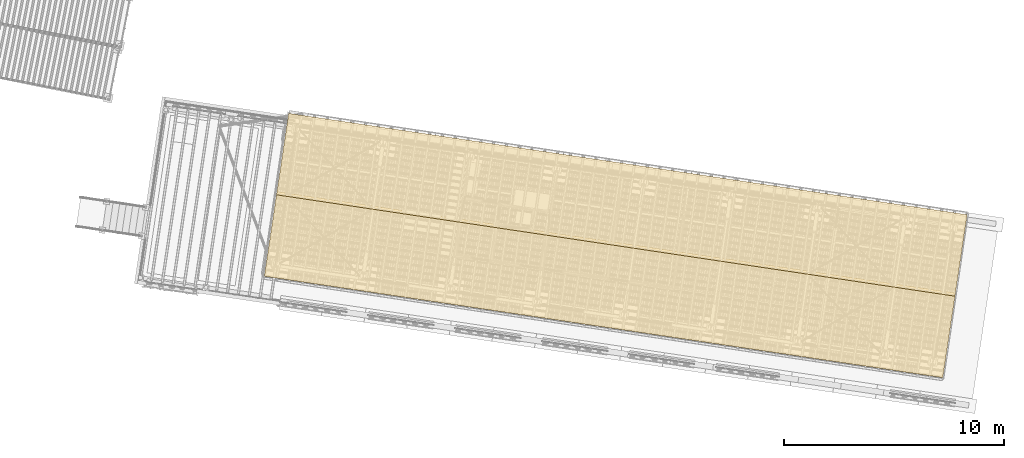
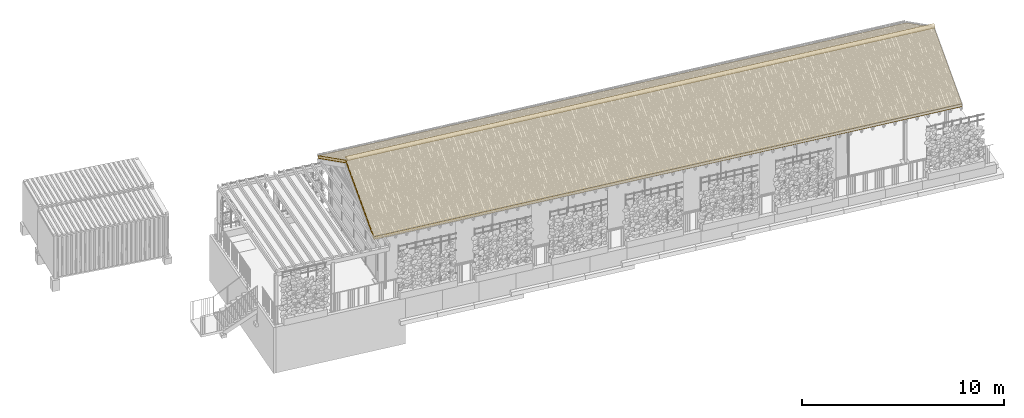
# One storey, part 125 of 128: 7 coverings, 1 element without a shape of its own.
"""IFC4 building model written with IfcOpenShell, lengths in metres."""

from ifc_helpers import new_model, si_unit, direction, frame, origin_with_axes, place, context, subcontext, project, spatial, polyline, outline, extrude, material, element, aggregate, save


model = new_model("IFC4")

# Units and contexts
model_context = context("Model", 3, precision=1e-05, world=origin_with_axes(), true_north=direction((0.0, 1.0)))
body_context = subcontext(model_context, "Body", "Model", "MODEL_VIEW")
ifc_project = project(units=[si_unit("VOLUMEUNIT", "CUBIC_METRE"), si_unit("LENGTHUNIT", "METRE"), si_unit("AREAUNIT", "SQUARE_METRE")], contexts=[model_context])

# Site, building, storey
site_placement = place(None, origin_with_axes())
site = spatial("IfcSite", under=ifc_project, at=site_placement, Name="Lares · Rua das Mercês · artigo 4771")
building_placement = place(site_placement, frame((15.0, 9.7, 13.9), z_axis=(0.0, 0.0, 1.0), x_axis=(0.989015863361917, -0.147809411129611, 0.0)))
building = spatial("IfcBuilding", under=site, at=building_placement, Name="Casa Sobreposta")
storey_placement = place(building_placement, origin_with_axes())
storey = spatial("IfcBuildingStorey", under=building, at=storey_placement, Name="00 · Habitação e estacionamento", Elevation=13.9)

# Roof, coverings
ifc_material_1 = material(Name="Madeira / Bauholz", Category="wood")
roof_placement = place(storey_placement, origin_with_axes())
roof = element("IfcRoof", 1, at=roof_placement, inside=storey, material=ifc_material_1, Name="Cobertura de telha · duas águas 30 graus", PredefinedType="GABLE_ROOF")
covering_1_placement = place(roof_placement, frame((-0.45, 0.0, 0.0), z_axis=(1.0, 0.0, 0.0), x_axis=(0.0, 1.0, 0.0)))
covering_1 = element("IfcCovering", 2, at=covering_1_placement, material=ifc_material_1, Name="Cobertura · forro de madeira", PredefinedType="CLADDING", context=body_context, shape_type="SweptSolid", body=[
    extrude(outline(polyline([(-0.55, 3.00245735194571), (3.2, 5.1675208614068), (3.2, 5.1875208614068), (-0.55, 3.02245735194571), (-0.55, 3.00245735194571)])), origin_with_axes(), (0.0, 0.0, 1.0), 31.22),
])
ifc_material_2 = material(Name="Lã mineral / Mineralwolle 2", Category="mineral wool")
covering_2_placement = place(roof_placement, frame((-0.45, 0.0, 0.0), z_axis=(1.0, 0.0, 0.0), x_axis=(0.0, 1.0, 0.0)))
covering_2 = element("IfcCovering", 3, at=covering_2_placement, material=ifc_material_2, Name="Cobertura · isolamento", PredefinedType="INSULATION", context=body_context, shape_type="SweptSolid", body=[
    extrude(outline(polyline([(-0.55, 3.02245735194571), (3.2, 5.1875208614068), (3.2, 5.3475208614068), (-0.55, 3.18245735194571), (-0.55, 3.02245735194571)])), origin_with_axes(), (0.0, 0.0, 1.0), 31.22),
])
ifc_material_3 = material(Name="Membrana impermeável — hipótese", Category="membrane")
covering_3_placement = place(roof_placement, frame((-0.45, 0.0, 0.0), z_axis=(1.0, 0.0, 0.0), x_axis=(0.0, 1.0, 0.0)))
covering_3 = element("IfcCovering", 4, at=covering_3_placement, material=ifc_material_3, Name="Cobertura · membrana", PredefinedType="MEMBRANE", context=body_context, shape_type="SweptSolid", body=[
    extrude(outline(polyline([(-0.55, 3.18245735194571), (3.2, 5.3475208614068), (3.2, 5.3515208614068), (-0.55, 3.18645735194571), (-0.55, 3.18245735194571)])), origin_with_axes(), (0.0, 0.0, 1.0), 31.22),
])
covering_4_placement = place(roof_placement, frame((-0.45, 0.0, 0.0), z_axis=(1.0, 0.0, 0.0), x_axis=(0.0, 1.0, 0.0)))
covering_4 = element("IfcCovering", 5, at=covering_4_placement, material=ifc_material_1, Name="Cobertura · forro de madeira", PredefinedType="CLADDING", context=body_context, shape_type="SweptSolid", body=[
    extrude(outline(polyline([(3.2, 5.1675208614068), (6.95, 3.00245735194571), (6.95, 3.02245735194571), (3.2, 5.1875208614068), (3.2, 5.1675208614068)])), origin_with_axes(), (0.0, 0.0, 1.0), 31.22),
])
covering_5_placement = place(roof_placement, frame((-0.45, 0.0, 0.0), z_axis=(1.0, 0.0, 0.0), x_axis=(0.0, 1.0, 0.0)))
covering_5 = element("IfcCovering", 6, at=covering_5_placement, material=ifc_material_2, Name="Cobertura · isolamento", PredefinedType="INSULATION", context=body_context, shape_type="SweptSolid", body=[
    extrude(outline(polyline([(3.2, 5.1875208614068), (6.95, 3.02245735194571), (6.95, 3.18245735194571), (3.2, 5.3475208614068), (3.2, 5.1875208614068)])), origin_with_axes(), (0.0, 0.0, 1.0), 31.22),
])
covering_6_placement = place(roof_placement, frame((-0.45, 0.0, 0.0), z_axis=(1.0, 0.0, 0.0), x_axis=(0.0, 1.0, 0.0)))
covering_6 = element("IfcCovering", 7, at=covering_6_placement, material=ifc_material_3, Name="Cobertura · membrana", PredefinedType="MEMBRANE", context=body_context, shape_type="SweptSolid", body=[
    extrude(outline(polyline([(3.2, 5.3475208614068), (6.95, 3.18245735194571), (6.95, 3.18645735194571), (3.2, 5.3515208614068), (3.2, 5.3475208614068)])), origin_with_axes(), (0.0, 0.0, 1.0), 31.22),
])
ifc_material_4 = material(Name="Telha cerâmica · tile1", Category="clay")
covering_7_placement = place(roof_placement, frame((-0.45, 0.0, 0.0), z_axis=(1.0, 0.0, 0.0), x_axis=(0.0, 1.0, 0.0)))
covering_7 = element("IfcCovering", 8, at=covering_7_placement, material=ifc_material_4, Name="Cobertura · cumeeira cerâmica", PredefinedType="ROOFING", context=body_context, shape_type="SweptSolid", body=[
    extrude(outline(polyline([(3.35, 5.4025208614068), (3.34392394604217, 5.44478074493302), (3.32618802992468, 5.48361698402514), (3.29822911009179, 5.51588329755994), (3.26231225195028, 5.53896566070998), (3.22134722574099, 5.55099407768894), (3.17865277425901, 5.55099407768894), (3.13768774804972, 5.53896566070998), (3.10177088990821, 5.51588329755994), (3.07381197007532, 5.48361698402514), (3.05607605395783, 5.44478074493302), (3.05, 5.4025208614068), (3.065, 5.4025208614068), (3.07046844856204, 5.4405547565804), (3.08643077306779, 5.47550737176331), (3.11159380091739, 5.50454705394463), (3.14391897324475, 5.52532118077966), (3.18078749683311, 5.53614675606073), (3.21921250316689, 5.53614675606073), (3.25608102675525, 5.52532118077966), (3.28840619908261, 5.50454705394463), (3.31356922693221, 5.47550737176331), (3.32953155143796, 5.4405547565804), (3.335, 5.4025208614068), (3.35, 5.4025208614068)])), origin_with_axes(), (0.0, 0.0, 1.0), 31.22),
])
aggregate(roof, [covering_1, covering_2, covering_3, covering_4, covering_5, covering_6, covering_7])

save(model, "model.ifc")
